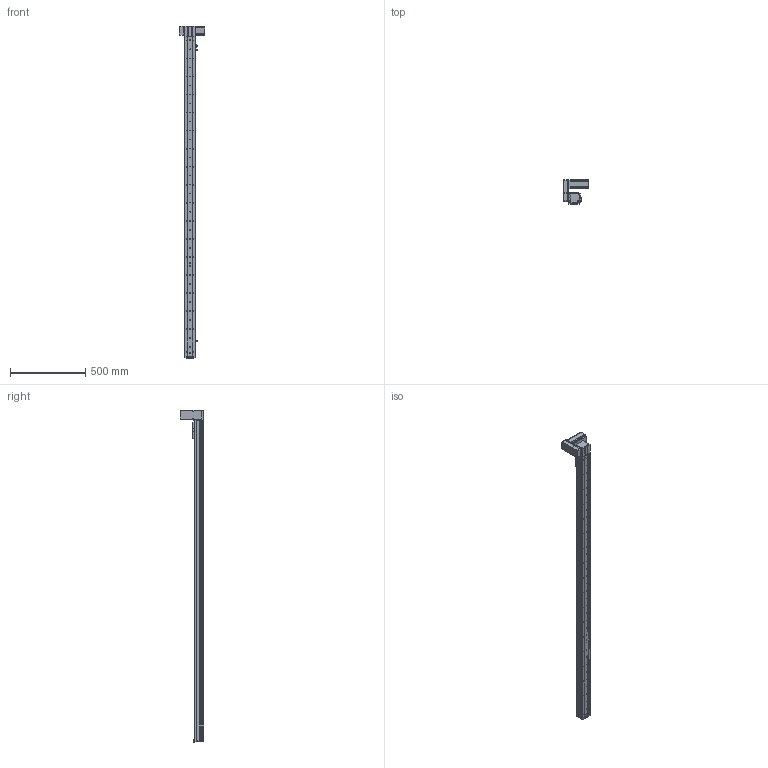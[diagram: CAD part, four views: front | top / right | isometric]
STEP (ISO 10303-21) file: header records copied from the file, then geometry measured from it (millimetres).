
FILE_DESCRIPTION (( 'STEP AP214' ), '1' );
FILE_NAME ('KSD68BS-S1950-MRU-CR.STEP', '2019-11-08T06:36:57', ( '微软用户' ), ( '微软中国' ), 'SwSTEP 2.0', 'SolidWorks 2014', '' );
FILE_SCHEMA (( 'AUTOMOTIVE_DESIGN' ));
Length unit declared in the file: millimetre
Products named in the file (14): KSD68BS-S1950-MRU-CR; KSD68BS 1950行程底板全封闭; 台达ECMA－C20604AS伺服电机（400W); U倰嫖萇EEㄜSX672; 感应片68宽全封闭; 68宽马达安装板连板上折同步带; 悵誘欶奻狟殏; 68单导轨全封闭同步带安装板; 68单导轨全封闭同步带电机座右; 68宽单导轨全封闭同步带端板; KSD68BS 1950行程侧板全封闭; 68宽单导轨全封闭丝杆传动安装板1防护罩; 68遵裔啣揤啣1; KSD68BS 1950行程盖板全封闭
Assembly tree (17 placements, depth 2):
  KSD68BS-S1950-MRU-CR
    KSD68BS 1950行程底板全封闭
    台达ECMA－C20604AS伺服电机（400W)
    U倰嫖萇EEㄜSX672  x3
    感应片68宽全封闭
    68宽马达安装板连板上折同步带
    悵誘欶奻狟殏
    68单导轨全封闭同步带安装板
    68单导轨全封闭同步带电机座右
    68宽单导轨全封闭同步带端板
    KSD68BS 1950行程侧板全封闭  x2
    68宽单导轨全封闭丝杆传动安装板1防护罩
    68遵裔啣揤啣1  x2
    KSD68BS 1950行程盖板全封闭
Bounding box: 167.2 x 159.5 x 2208.1 mm (x, y, z)
Volume: 3817476.8 mm3; surface area: 1575560.7 mm2
Topology: 18 solids, 18 shells, 1654 faces, 4791 edges, 3047 vertices
Faces by surface type: cylinder 823, plane 631, cone 200
Entity records: 54610 total; most frequent: CARTESIAN_POINT 9517, DIRECTION 8115, ORIENTED_EDGE 7762, EDGE_CURVE 3881, AXIS2_PLACEMENT_3D 2971, VERTEX_POINT 2545, VECTOR 2173, LINE 2173
